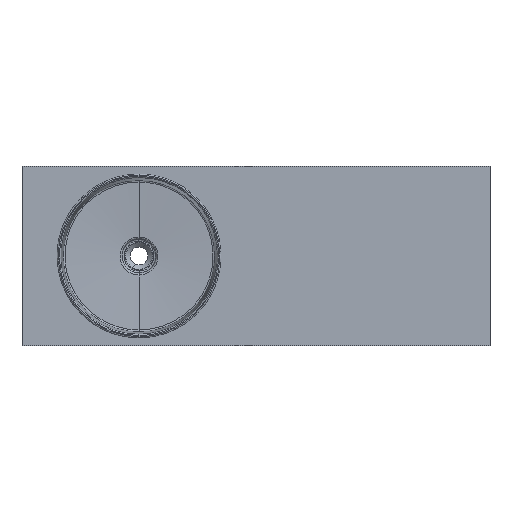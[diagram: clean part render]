
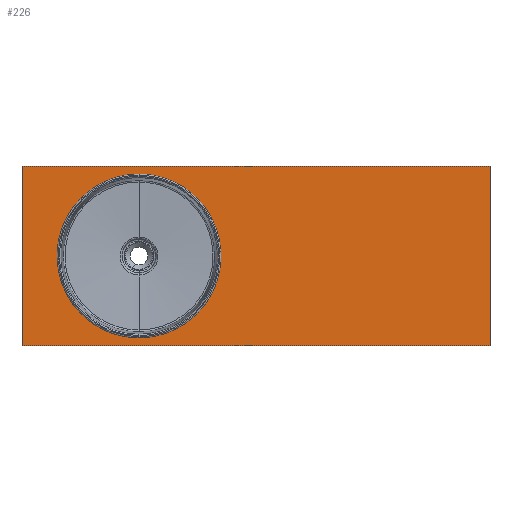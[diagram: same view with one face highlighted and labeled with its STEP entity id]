
A CAD part, top view. The second image highlights one B-rep face of the part: STEP entity #226.
In plain terms, the highlighted planar face has unit normal (0, 0, 1).
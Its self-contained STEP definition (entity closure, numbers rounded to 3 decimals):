
#37=FACE_BOUND('',#619,.T.);
#226=ADVANCED_FACE('',(#417,#37),#2832,.T.);
#417=FACE_OUTER_BOUND('',#618,.T.);
#618=EDGE_LOOP('',(#1488,#1489,#1490,#1491));
#619=EDGE_LOOP('',(#1492,#1493));
#1488=ORIENTED_EDGE('',*,*,#1928,.F.);
#1489=ORIENTED_EDGE('',*,*,#1935,.F.);
#1490=ORIENTED_EDGE('',*,*,#1933,.F.);
#1491=ORIENTED_EDGE('',*,*,#1931,.F.);
#1492=ORIENTED_EDGE('',*,*,#1937,.T.);
#1493=ORIENTED_EDGE('',*,*,#1941,.T.);
#1928=EDGE_CURVE('',#2634,#2635,#2186,.T.);
#1931=EDGE_CURVE('',#2635,#2636,#2189,.T.);
#1933=EDGE_CURVE('',#2636,#2637,#2191,.T.);
#1935=EDGE_CURVE('',#2637,#2634,#2193,.T.);
#1937=EDGE_CURVE('',#2639,#2641,#2377,.T.);
#1941=EDGE_CURVE('',#2641,#2639,#2381,.T.);
#2186=B_SPLINE_CURVE_WITH_KNOTS('',1,(#15987,#15988),.UNSPECIFIED.,.F.,
 .F.,(2,2),(0.,460.),.UNSPECIFIED.);
#2189=B_SPLINE_CURVE_WITH_KNOTS('',1,(#15993,#15994),.UNSPECIFIED.,.F.,
 .F.,(2,2),(0.,1200.),.UNSPECIFIED.);
#2191=B_SPLINE_CURVE_WITH_KNOTS('',1,(#15997,#15998),.UNSPECIFIED.,.F.,
 .F.,(2,2),(0.,460.),.UNSPECIFIED.);
#2193=B_SPLINE_CURVE_WITH_KNOTS('',1,(#16001,#16002),.UNSPECIFIED.,.F.,
 .F.,(2,2),(0.,1200.),.UNSPECIFIED.);
#2377=(
BOUNDED_CURVE()
B_SPLINE_CURVE(2,(#16008,#16009,#16010,#16011,#16012),.UNSPECIFIED.,.F.,
 .F.)
B_SPLINE_CURVE_WITH_KNOTS((3,2,3),(-637.466,-478.1,
-318.733),.UNSPECIFIED.)
CURVE()
GEOMETRIC_REPRESENTATION_ITEM()
RATIONAL_B_SPLINE_CURVE((1.,0.707,1.,0.707,1.))
REPRESENTATION_ITEM('')
);
#2381=(
BOUNDED_CURVE()
B_SPLINE_CURVE(2,(#16022,#16023,#16024,#16025,#16026),.UNSPECIFIED.,.F.,
 .F.)
B_SPLINE_CURVE_WITH_KNOTS((3,2,3),(-318.733,-159.367,
0.),.UNSPECIFIED.)
CURVE()
GEOMETRIC_REPRESENTATION_ITEM()
RATIONAL_B_SPLINE_CURVE((1.,0.707,1.,0.707,1.))
REPRESENTATION_ITEM('')
);
#2634=VERTEX_POINT('',#15923);
#2635=VERTEX_POINT('',#15924);
#2636=VERTEX_POINT('',#15925);
#2637=VERTEX_POINT('',#15926);
#2639=VERTEX_POINT('',#15928);
#2641=VERTEX_POINT('',#15930);
#2832=PLANE('',#2889);
#2889=AXIS2_PLACEMENT_3D('',#15882,#2929,$);
#2929=DIRECTION('',(0.,0.,1.));
#15882=CARTESIAN_POINT('',(-120.12,-506.12,12.));
#15923=CARTESIAN_POINT('',(1200.,0.,12.));
#15924=CARTESIAN_POINT('',(1200.,-460.,12.));
#15925=CARTESIAN_POINT('',(0.,-460.,12.));
#15926=CARTESIAN_POINT('',(0.,0.,12.));
#15928=CARTESIAN_POINT('',(387.863,-179.272,12.));
#15930=CARTESIAN_POINT('',(212.137,-280.728,12.));
#15987=CARTESIAN_POINT('',(1200.,0.,12.));
#15988=CARTESIAN_POINT('',(1200.,-460.,12.));
#15993=CARTESIAN_POINT('',(1200.,-460.,12.));
#15994=CARTESIAN_POINT('',(0.,-460.,12.));
#15997=CARTESIAN_POINT('',(0.,-460.,12.));
#15998=CARTESIAN_POINT('',(0.,0.,12.));
#16001=CARTESIAN_POINT('',(0.,0.,12.));
#16002=CARTESIAN_POINT('',(1200.,0.,12.));
#16008=CARTESIAN_POINT('',(387.863,-179.272,12.));
#16009=CARTESIAN_POINT('',(438.591,-267.135,12.));
#16010=CARTESIAN_POINT('',(350.728,-317.863,12.));
#16011=CARTESIAN_POINT('',(262.865,-368.591,12.));
#16012=CARTESIAN_POINT('',(212.137,-280.728,12.));
#16022=CARTESIAN_POINT('',(212.137,-280.728,12.));
#16023=CARTESIAN_POINT('',(161.409,-192.865,12.));
#16024=CARTESIAN_POINT('',(249.272,-142.137,12.));
#16025=CARTESIAN_POINT('',(337.135,-91.409,12.));
#16026=CARTESIAN_POINT('',(387.863,-179.272,12.));
